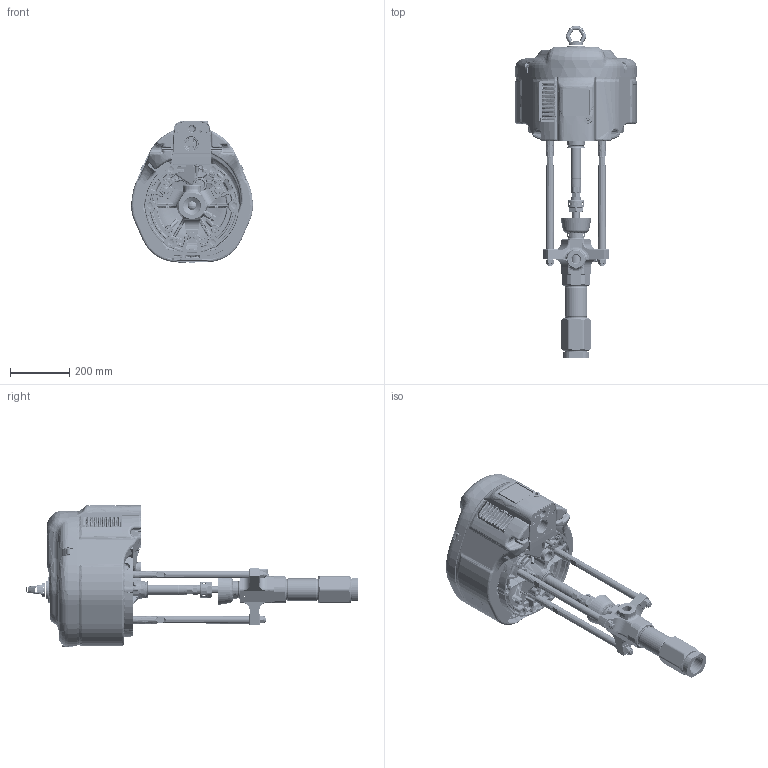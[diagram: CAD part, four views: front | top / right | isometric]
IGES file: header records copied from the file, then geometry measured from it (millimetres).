
Start section:  PTC IGES file: p57lss-en-c.igs
Global section: file name: p57lss-en-c.igs; native system: Creo Parametric by PTC Inc.; preprocessor: 2019030; author: qusrh3; organization: Unknown; date: 20200528.135437; units: inch
Bounding box: 410.21 x 1119.35 x 480.01 mm (x, y, z)
Surface area: 3586644.1 mm2 (no closed solid volume)
Topology: 0 solids, 0 shells, 6205 faces, 36476 edges, 36453 vertices
Faces by surface type: revolution 3393, bspline 2791, extrusion 21
